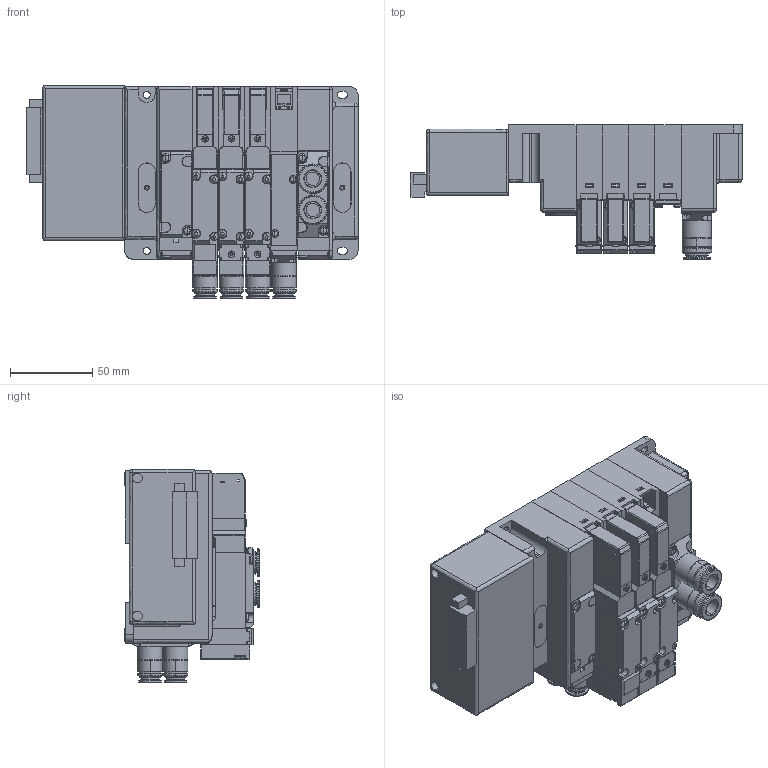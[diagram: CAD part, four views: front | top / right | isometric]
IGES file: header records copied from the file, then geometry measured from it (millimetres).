
Start section: ------------------------------------------------------------------------
Global section: file name: D:\ICADMX\tmp\trans3d_spg\CVICAD02.5220.F15M4XSJ-JR-B1_16906.igs; native system: spGate; preprocessor: ver12.6.6; author: Unknown; organization: Unknown; date: 210712.184935; units: millimetre
Bounding box: 202 x 81.7 x 129.7 mm (x, y, z)
Volume: 994201.2 mm3; surface area: 228791.7 mm2
Topology: 39 solids, 39 shells, 3257 faces, 8312 edges, 5316 vertices
Faces by surface type: bspline 3257
